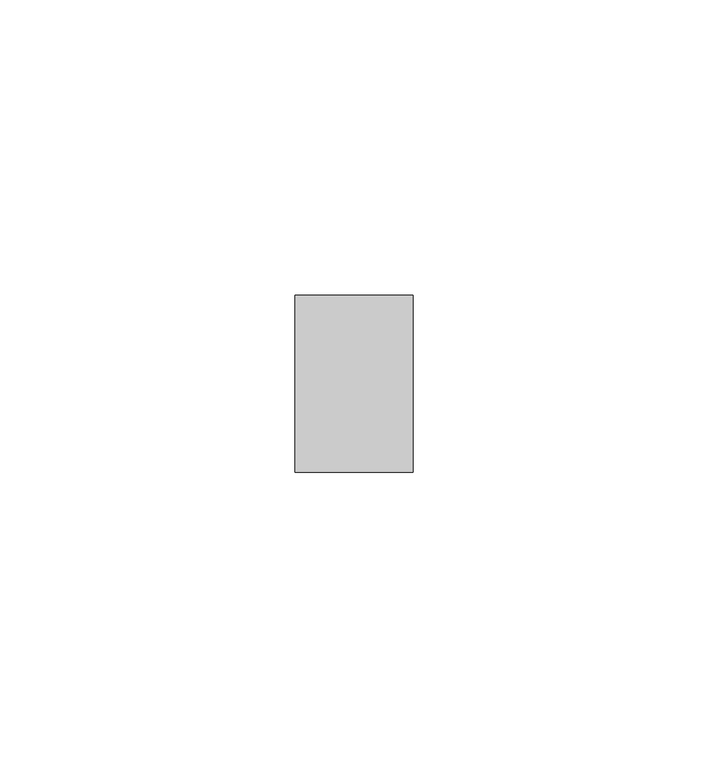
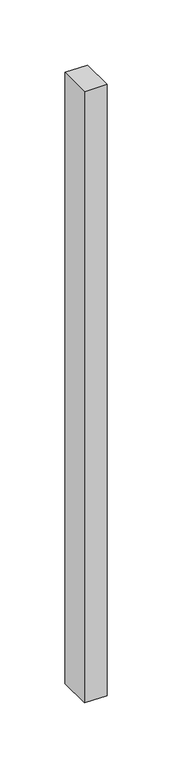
"""IFC4 building model written with IfcOpenShell, lengths in millimetres: member geometry, Прямоугольный импост : Квадрат 10 мм - Зазор между навесными плитами."""

from ifc_helpers import new_model, si_unit, frame, origin, place, context, project, spatial, polyline, outline, extrude, source, transform, mapped, element, save


def member_55f7c2d0(model_context):
    return source(origin(), model_context, "Body", "SweptSolid", [
        extrude(outline(polyline([(10.0, 15.0), (10.0, -15.0), (-10.0, -15.0), (-10.0, 15.0), (10.0, 15.0)])), frame((0.0, 0.0, -573.5905411), z_axis=(0.0, 0.0, 1.0), x_axis=(1.0, 0.0, 0.0)), (0.0, 0.0, 1.0), 573.5905411),
    ])


if __name__ == "__main__":
    model = new_model("IFC4")
    model_context = context("Model", 3, world=origin())
    ifc_project = project(units=[si_unit("LENGTHUNIT", "METRE", prefix="MILLI")], contexts=[model_context])
    site = spatial("IfcSite", under=ifc_project)
    building = spatial("IfcBuilding", under=site)
    placement = place(None, origin())
    member_shape = member_55f7c2d0(model_context)
    element("IfcMember", 1, ObjectType="Прямоугольный импост : Квадрат 10 мм - Зазор между навесными плитами", at=placement, inside=building, context=model_context, shape_type="MappedRepresentation", body=[
        mapped(member_shape, transform((0.0, 0.0, 0.0), x_axis=(1.0, 0.0, 0.0), y_axis=(0.0, 1.0, 0.0), z_axis=(0.0, 0.0, 1.0))),
    ])
    save(model, "model.ifc")
